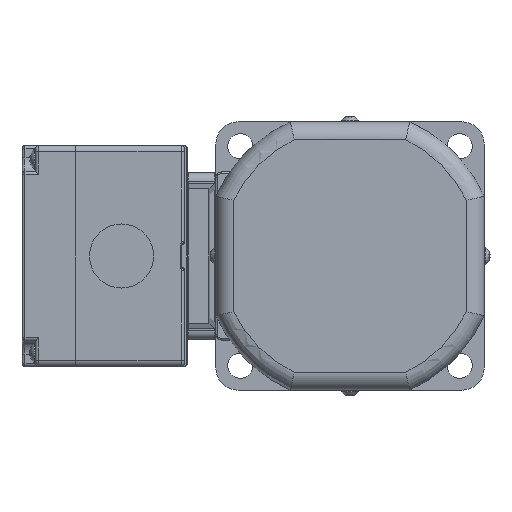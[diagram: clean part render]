
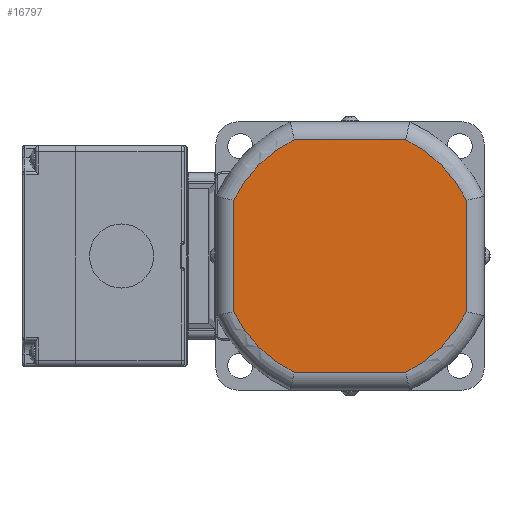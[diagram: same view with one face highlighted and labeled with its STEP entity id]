
A CAD part, left-side view. The second image highlights one B-rep face of the part: STEP entity #16797.
In plain terms, the highlighted planar face has unit normal (-1, 0, 0).
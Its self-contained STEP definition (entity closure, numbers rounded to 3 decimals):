
#686=LINE('',#26657,#2062);
#689=LINE('',#26677,#2065);
#690=LINE('',#26730,#2066);
#691=LINE('',#26747,#2067);
#2062=VECTOR('',#20484,37.393);
#2065=VECTOR('',#20489,37.393);
#2066=VECTOR('',#20504,37.393);
#2067=VECTOR('',#20507,37.393);
#3938=FACE_OUTER_BOUND('',#4946,.T.);
#4946=EDGE_LOOP('',(#11778,#11779,#11780,#11781,#11782,#11783,#11784,#11785));
#5933=CIRCLE('',#17961,43.25);
#5934=CIRCLE('',#17965,43.25);
#5937=CIRCLE('',#17969,43.25);
#5938=CIRCLE('',#17973,43.25);
#6910=VERTEX_POINT('',#26607);
#6912=VERTEX_POINT('',#26624);
#6914=VERTEX_POINT('',#26642);
#6916=VERTEX_POINT('',#26661);
#6917=VERTEX_POINT('',#26679);
#6918=VERTEX_POINT('',#26697);
#6919=VERTEX_POINT('',#26715);
#6920=VERTEX_POINT('',#26732);
#8720=EDGE_CURVE('',#6912,#6910,#5933,.T.);
#8722=EDGE_CURVE('',#6914,#6912,#686,.T.);
#8726=EDGE_CURVE('',#6910,#6916,#689,.T.);
#8728=EDGE_CURVE('',#6917,#6914,#5934,.T.);
#8732=EDGE_CURVE('',#6916,#6918,#5937,.T.);
#8734=EDGE_CURVE('',#6919,#6917,#690,.T.);
#8736=EDGE_CURVE('',#6918,#6920,#691,.T.);
#8737=EDGE_CURVE('',#6920,#6919,#5938,.T.);
#11778=ORIENTED_EDGE('',*,*,#8736,.F.);
#11779=ORIENTED_EDGE('',*,*,#8732,.F.);
#11780=ORIENTED_EDGE('',*,*,#8726,.F.);
#11781=ORIENTED_EDGE('',*,*,#8720,.F.);
#11782=ORIENTED_EDGE('',*,*,#8722,.F.);
#11783=ORIENTED_EDGE('',*,*,#8728,.F.);
#11784=ORIENTED_EDGE('',*,*,#8734,.F.);
#11785=ORIENTED_EDGE('',*,*,#8737,.F.);
#15227=PLANE('',#17975);
#16797=ADVANCED_FACE('',(#3938),#15227,.F.);
#17961=AXIS2_PLACEMENT_3D('',#26639,#20480,#20481);
#17965=AXIS2_PLACEMENT_3D('',#26694,#20492,#20493);
#17969=AXIS2_PLACEMENT_3D('',#26713,#20500,#20501);
#17973=AXIS2_PLACEMENT_3D('',#26749,#20510,#20511);
#17975=AXIS2_PLACEMENT_3D('',#26751,#20514,#20515);
#20480=DIRECTION('center_axis',(1.,0.,0.));
#20481=DIRECTION('ref_axis',(0.,0.707,-0.707));
#20484=DIRECTION('',(0.,1.,0.));
#20489=DIRECTION('',(0.,0.,1.));
#20492=DIRECTION('center_axis',(1.,0.,0.));
#20493=DIRECTION('ref_axis',(0.,-0.707,-0.707));
#20500=DIRECTION('center_axis',(1.,0.,0.));
#20501=DIRECTION('ref_axis',(0.,0.707,0.707));
#20504=DIRECTION('',(0.,0.,-1.));
#20507=DIRECTION('',(0.,-1.,0.));
#20510=DIRECTION('center_axis',(1.,0.,0.));
#20511=DIRECTION('ref_axis',(0.,-0.707,0.707));
#20514=DIRECTION('center_axis',(1.,0.,0.));
#20515=DIRECTION('ref_axis',(0.,1.,0.));
#26607=CARTESIAN_POINT('',(-17.8,39.,-18.697));
#26624=CARTESIAN_POINT('',(-17.8,18.697,-39.));
#26639=CARTESIAN_POINT('Origin',(-17.8,0.,
0.));
#26642=CARTESIAN_POINT('',(-17.8,-18.697,-39.));
#26657=CARTESIAN_POINT('',(-17.8,-18.697,-39.));
#26661=CARTESIAN_POINT('',(-17.8,39.,18.697));
#26677=CARTESIAN_POINT('',(-17.8,39.,-18.697));
#26679=CARTESIAN_POINT('',(-17.8,-39.,-18.697));
#26694=CARTESIAN_POINT('Origin',(-17.8,0.,
0.));
#26697=CARTESIAN_POINT('',(-17.8,18.697,39.));
#26713=CARTESIAN_POINT('Origin',(-17.8,0.,
0.));
#26715=CARTESIAN_POINT('',(-17.8,-39.,18.697));
#26730=CARTESIAN_POINT('',(-17.8,-39.,18.697));
#26732=CARTESIAN_POINT('',(-17.8,-18.697,39.));
#26747=CARTESIAN_POINT('',(-17.8,18.697,39.));
#26749=CARTESIAN_POINT('Origin',(-17.8,0.,
0.));
#26751=CARTESIAN_POINT('Origin',(-17.8,0.,
0.));
